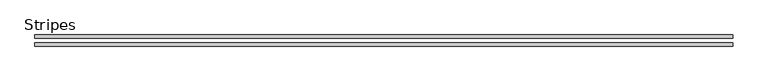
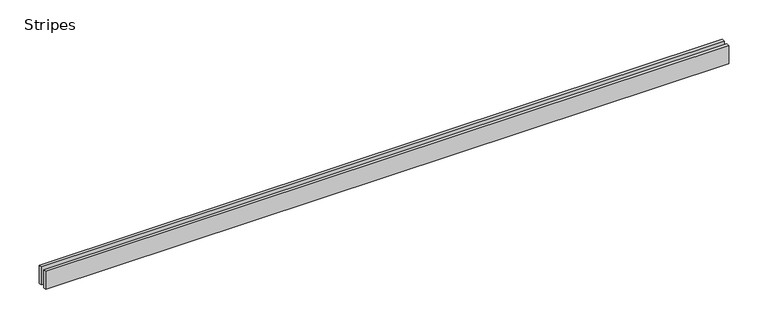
"""IFC4 building model written with IfcOpenShell, lengths in millimetres: sanitary terminal geometry, ZZZ_do not use_PF_ST_UN_grating for ShowerDrain S_ACO : Stripes."""

import ifcopenshell
import ifcopenshell.guid

model = None  # the IFC model being written
_history = None  # IfcOwnerHistory: only IFC2X3 demands one
_inside = {}  # id of a spatial element -> (the spatial element, [elements in it])
_under = {}  # id of a project, library or spatial element -> (it, [spatial elements below it])
_declared = {}  # id of a project -> (the project, [libraries it declares])
_typed = {}  # id of a type object -> (the type object, [elements of that type])
_made_of = {}  # id of a material, layer set ... -> (it, [elements and type objects made of it])


def new_model(schema):
    """Start an empty IFC model of exactly this schema.

    Asked for "IFC4X3", IfcOpenShell would pick the latest addendum, in which some entities
    have other attributes; the version numbers below select the first issue.
    IFC2X3 requires an IfcOwnerHistory on every rooted entity: one is made here for all.
    """
    global model, _history
    if schema == "IFC4X3":
        model = ifcopenshell.file(schema_version=(4, 3, 0, 0))
    else:
        model = ifcopenshell.file(schema=schema)
    _inside.clear()
    _under.clear()
    _declared.clear()
    _typed.clear()
    _made_of.clear()
    _history = None
    if model.schema == "IFC2X3":
        org = make("IfcOrganization", Name="unknown")
        user = make(
            "IfcPersonAndOrganization",
            ThePerson=make("IfcPerson", FamilyName="unknown"),
            TheOrganization=org,
        )
        app = make(
            "IfcApplication",
            ApplicationDeveloper=org,
            Version="unknown",
            ApplicationFullName="unknown",
            ApplicationIdentifier="unknown",
        )
        _history = make(
            "IfcOwnerHistory",
            OwningUser=user,
            OwningApplication=app,
            ChangeAction="ADDED",
            CreationDate=0,
        )
    return model


def make(cls, **values):
    """One entity of the class cls with the attributes given. An attribute that is None is left unset."""
    return model.create_entity(
        cls, **{name: value for name, value in values.items() if value is not None}
    )


def rooted(cls, **values):
    """An entity with a GlobalId (a new one), such as an element, a storey or a relation."""
    return make(cls, GlobalId=ifcopenshell.guid.new(), OwnerHistory=_history, **values)


def si_unit(unit_type, name, prefix=None):
    """IfcSIUnit, for example si_unit("LENGTHUNIT", "METRE", prefix="MILLI")."""
    return make("IfcSIUnit", UnitType=unit_type, Prefix=prefix, Name=name)


def assignment(units):
    """IfcUnitAssignment: the units of a project."""
    return None if units is None else make("IfcUnitAssignment", Units=units)


def point(xyz):
    """IfcCartesianPoint."""
    return None if xyz is None else make("IfcCartesianPoint", Coordinates=xyz)


def direction(xyz):
    """IfcDirection."""
    return None if xyz is None else make("IfcDirection", DirectionRatios=xyz)


def frame(location, z_axis=None, x_axis=None):
    """IfcAxis2Placement3D, a coordinate frame: its origin and axes. An axis left out is left unset."""
    return make(
        "IfcAxis2Placement3D",
        Location=point(location),
        Axis=direction(z_axis),
        RefDirection=direction(x_axis),
    )


def origin():
    """The frame at (0, 0, 0) with its axes left unset."""
    return frame((0.0, 0.0, 0.0))


def place(relative_to, where):
    """IfcLocalPlacement: puts the frame where relative to a parent placement (None: the world)."""
    return make(
        "IfcLocalPlacement", PlacementRelTo=relative_to, RelativePlacement=where
    )


def context(
    kind, dimensions, precision=None, world=None, true_north=None, identifier=None
):
    """IfcGeometricRepresentationContext, for example the 3D "Model" context."""
    return make(
        "IfcGeometricRepresentationContext",
        ContextIdentifier=identifier,
        ContextType=kind,
        CoordinateSpaceDimension=dimensions,
        Precision=precision,
        WorldCoordinateSystem=world,
        TrueNorth=true_north,
    )


def project(units=None, contexts=None):
    """IfcProject with its units and contexts."""
    return rooted(
        "IfcProject",
        Name="project",
        RepresentationContexts=contexts,
        UnitsInContext=assignment(units),
    )


def spatial(cls, under=None, at=None, **own):
    """A site, building, storey or space (cls), placed at a placement, below another one or the project."""
    s = rooted(cls, ObjectPlacement=at, **own)
    if under is not None:
        _under.setdefault(under.id(), (under, []))[1].append(s)
    return s


def polyline(points):
    """IfcPolyline through the points."""
    return make("IfcPolyline", Points=[point(p) for p in points])


def outline(outer, holes=None, kind="AREA"):
    """IfcArbitraryClosedProfileDef: a profile drawn as a closed curve; with holes, ...WithVoids."""
    if holes is None:
        return make("IfcArbitraryClosedProfileDef", ProfileType=kind, OuterCurve=outer)
    return make(
        "IfcArbitraryProfileDefWithVoids",
        ProfileType=kind,
        OuterCurve=outer,
        InnerCurves=holes,
    )


def extrude(swept, where, along, depth):
    """IfcExtrudedAreaSolid: the profile swept, set in the frame where, extruded along a direction by depth."""
    return make(
        "IfcExtrudedAreaSolid",
        SweptArea=swept,
        Position=where,
        ExtrudedDirection=direction(along),
        Depth=depth,
    )


def shape(context_of_items, identifier, shape_type, items):
    """IfcShapeRepresentation: the items that make up one representation, for example the "Body"."""
    return make(
        "IfcShapeRepresentation",
        ContextOfItems=context_of_items,
        RepresentationIdentifier=identifier,
        RepresentationType=shape_type,
        Items=items,
    )


def source(mapping_origin, context_of_items, identifier, shape_type, items):
    """IfcRepresentationMap: a shape defined once, which mapped items show again and again."""
    return make(
        "IfcRepresentationMap",
        MappingOrigin=mapping_origin,
        MappedRepresentation=shape(context_of_items, identifier, shape_type, items),
    )


def transform(
    local_origin,
    x_axis=None,
    y_axis=None,
    z_axis=None,
    scale=None,
    scale2=None,
    scale3=None,
    uniform=True,
):
    """IfcCartesianTransformationOperator3D, or its non-uniform kind. x_axis, y_axis, z_axis: its Axis1, 2, 3."""
    if uniform:
        return make(
            "IfcCartesianTransformationOperator3D",
            Axis1=direction(x_axis),
            Axis2=direction(y_axis),
            LocalOrigin=point(local_origin),
            Scale=scale,
            Axis3=direction(z_axis),
        )
    return make(
        "IfcCartesianTransformationOperator3DnonUniform",
        Axis1=direction(x_axis),
        Axis2=direction(y_axis),
        LocalOrigin=point(local_origin),
        Scale=scale,
        Axis3=direction(z_axis),
        Scale2=scale2,
        Scale3=scale3,
    )


def mapped(mapping_source, mapping_target):
    """IfcMappedItem: shows the shape of a source again, moved by a transform."""
    return make(
        "IfcMappedItem", MappingSource=mapping_source, MappingTarget=mapping_target
    )


def made_of(thing, what):
    """Note that an element or type object is made of a material, layer set ...; save() writes the relation."""
    if what is not None:
        _made_of.setdefault(what.id(), (what, []))[1].append(thing)
    return thing


def element(
    cls,
    number,
    at=None,
    inside=None,
    cuts=None,
    type_object=None,
    material=None,
    context=None,
    identifier="Body",
    shape_type=None,
    held_by="IfcProductDefinitionShape",
    body=None,
    shapes=None,
    **own,
):
    """One element of the class cls, such as IfcWall. Its Tag is "e" and its number.

    at: its placement. inside: the storey or other place that contains it. cuts: it is an
    opening in that element (IfcRelVoidsElement). A single representation is given by context,
    identifier, shape_type and body (its items); several are given by shapes. held_by: the class
    of the entity that holds the representations. save() writes the other relations.
    """
    e = rooted(cls, Tag="e%d" % number, ObjectPlacement=at, **own)
    if body is not None:
        shapes = [shape(context, identifier, shape_type, body)]
    if shapes is not None:
        e.Representation = make(held_by, Representations=shapes)
    if inside is not None:
        _inside.setdefault(inside.id(), (inside, []))[1].append(e)
    if cuts is not None:
        rooted(
            "IfcRelVoidsElement", RelatingBuildingElement=cuts, RelatedOpeningElement=e
        )
    if type_object is not None:
        _typed.setdefault(type_object.id(), (type_object, []))[1].append(e)
    return made_of(e, material)


def aggregate(whole, parts):
    """IfcRelAggregates: a whole, such as a stair, and the parts it consists of."""
    return rooted("IfcRelAggregates", RelatingObject=whole, RelatedObjects=parts)


def save(model, path):
    """Write the relations noted so far, then the file.

    IfcRelAggregates (storeys below a building ...), IfcRelContainedInSpatialStructure (elements
    in a storey), IfcRelDefinesByType, IfcRelAssociatesMaterial and IfcRelDeclares: one each for
    every whole, place, type object, material and project.
    """
    for whole, parts in _under.values():
        aggregate(whole, parts)
    for where, things in _inside.values():
        rooted(
            "IfcRelContainedInSpatialStructure",
            RelatedElements=things,
            RelatingStructure=where,
        )
    for kind, things in _typed.values():
        rooted("IfcRelDefinesByType", RelatedObjects=things, RelatingType=kind)
    for what, things in _made_of.values():
        rooted("IfcRelAssociatesMaterial", RelatedObjects=things, RelatingMaterial=what)
    for by, libraries in _declared.values():
        rooted("IfcRelDeclares", RelatingContext=by, RelatedDefinitions=libraries)
    model.write(path)


def stripes_9f4e3192(model_context):
    return source(origin(), model_context, "Body", "SweptSolid", [
        extrude(outline(polyline([(500.0, 8.0), (500.0, 3.5), (-500.0, 3.5), (-500.0, 8.0), (500.0, 8.0)])), frame((0.0, 0.0, -28.0), z_axis=(0.0, 0.0, 1.0), x_axis=(1.0, 0.0, 0.0)), (0.0, 0.0, 1.0), 28.0),
        extrude(outline(polyline([(500.0, -3.5), (500.0, -8.0), (-500.0, -8.0), (-500.0, -3.5), (500.0, -3.5)])), frame((0.0, 0.0, -28.0), z_axis=(0.0, 0.0, 1.0), x_axis=(1.0, 0.0, 0.0)), (0.0, 0.0, 1.0), 28.0),
    ])


if __name__ == "__main__":
    model = new_model("IFC4")
    model_context = context("Model", 3, world=origin())
    ifc_project = project(units=[si_unit("LENGTHUNIT", "METRE", prefix="MILLI")], contexts=[model_context])
    site = spatial("IfcSite", under=ifc_project)
    building = spatial("IfcBuilding", under=site)
    placement = place(None, origin())
    stripes_shape = stripes_9f4e3192(model_context)
    element("IfcSanitaryTerminal", 1, ObjectType="ZZZ_do not use_PF_ST_UN_grating for ShowerDrain S_ACO : Stripes", at=placement, inside=building, context=model_context, shape_type="MappedRepresentation", body=[
        mapped(stripes_shape, transform((0.0, 0.0, 0.0), x_axis=(1.0, 0.0, 0.0), y_axis=(0.0, 1.0, 0.0), z_axis=(0.0, 0.0, 1.0))),
    ])
    save(model, "model.ifc")
